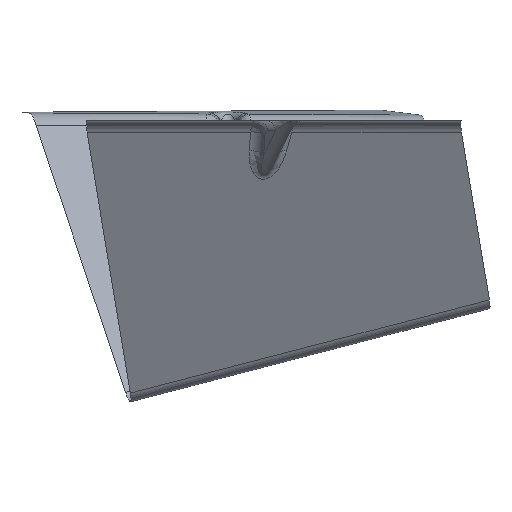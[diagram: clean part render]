
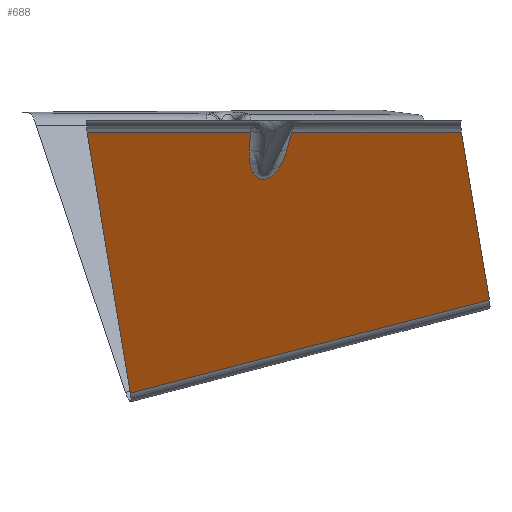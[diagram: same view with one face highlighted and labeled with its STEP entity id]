
A CAD part, left-side view. The second image highlights one B-rep face of the part: STEP entity #688.
In plain terms, the highlighted planar face has unit normal (-0.83, -0.249, -0.5).
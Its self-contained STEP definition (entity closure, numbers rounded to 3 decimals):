
#254=CARTESIAN_POINT('Vertex',(-77.236,6.213,-1.85)) ;
#277=CARTESIAN_POINT('Line Origine',(-62.4,7.956,-27.331)) ;
#281=CARTESIAN_POINT('Vertex',(-74.307,6.557,-6.88)) ;
#570=CARTESIAN_POINT('Control Point',(-71.308,-3.442,-6.88)) ;
#571=CARTESIAN_POINT('Control Point',(-71.119,-3.347,-7.24)) ;
#572=CARTESIAN_POINT('Control Point',(-70.934,-3.242,-7.6)) ;
#573=CARTESIAN_POINT('Control Point',(-70.751,-3.126,-7.96)) ;
#574=CARTESIAN_POINT('Control Point',(-70.4,-2.877,-8.666)) ;
#575=CARTESIAN_POINT('Control Point',(-70.066,-2.584,-9.367)) ;
#576=CARTESIAN_POINT('Control Point',(-69.905,-2.428,-9.711)) ;
#577=CARTESIAN_POINT('Control Point',(-69.61,-2.109,-10.359)) ;
#578=CARTESIAN_POINT('Control Point',(-69.336,-1.741,-10.998)) ;
#579=CARTESIAN_POINT('Control Point',(-69.211,-1.555,-11.298)) ;
#580=CARTESIAN_POINT('Control Point',(-68.992,-1.187,-11.844)) ;
#581=CARTESIAN_POINT('Control Point',(-68.799,-0.767,-12.374)) ;
#582=CARTESIAN_POINT('Control Point',(-68.717,-0.562,-12.612)) ;
#583=CARTESIAN_POINT('Control Point',(-68.583,-0.17,-13.028)) ;
#584=CARTESIAN_POINT('Control Point',(-68.482,0.275,-13.418)) ;
#585=CARTESIAN_POINT('Control Point',(-68.445,0.483,-13.584)) ;
#586=CARTESIAN_POINT('Control Point',(-68.395,0.872,-13.859)) ;
#587=CARTESIAN_POINT('Control Point',(-68.384,1.307,-14.094)) ;
#588=CARTESIAN_POINT('Control Point',(-68.387,1.503,-14.186)) ;
#589=CARTESIAN_POINT('Control Point',(-68.411,1.866,-14.326)) ;
#590=CARTESIAN_POINT('Control Point',(-68.472,2.25,-14.417)) ;
#591=CARTESIAN_POINT('Control Point',(-68.506,2.42,-14.446)) ;
#592=CARTESIAN_POINT('Control Point',(-68.59,2.765,-14.478)) ;
#593=CARTESIAN_POINT('Control Point',(-68.703,3.104,-14.459)) ;
#594=CARTESIAN_POINT('Control Point',(-68.767,3.27,-14.436)) ;
#595=CARTESIAN_POINT('Control Point',(-68.919,3.622,-14.359)) ;
#596=CARTESIAN_POINT('Control Point',(-69.09,3.938,-14.232)) ;
#597=CARTESIAN_POINT('Control Point',(-69.187,4.099,-14.151)) ;
#598=CARTESIAN_POINT('Control Point',(-69.403,4.425,-13.955)) ;
#599=CARTESIAN_POINT('Control Point',(-69.625,4.703,-13.725)) ;
#600=CARTESIAN_POINT('Control Point',(-69.745,4.841,-13.594)) ;
#601=CARTESIAN_POINT('Control Point',(-70.02,5.13,-13.282)) ;
#602=CARTESIAN_POINT('Control Point',(-70.294,5.371,-12.947)) ;
#603=CARTESIAN_POINT('Control Point',(-70.447,5.493,-12.754)) ;
#604=CARTESIAN_POINT('Control Point',(-70.797,5.747,-12.301)) ;
#605=CARTESIAN_POINT('Control Point',(-71.141,5.948,-11.83)) ;
#606=CARTESIAN_POINT('Control Point',(-71.333,6.048,-11.561)) ;
#607=CARTESIAN_POINT('Control Point',(-71.766,6.246,-10.941)) ;
#608=CARTESIAN_POINT('Control Point',(-72.189,6.385,-10.309)) ;
#609=CARTESIAN_POINT('Control Point',(-72.423,6.448,-9.952)) ;
#610=CARTESIAN_POINT('Control Point',(-72.952,6.559,-9.129)) ;
#611=CARTESIAN_POINT('Control Point',(-73.467,6.6,-8.296)) ;
#612=CARTESIAN_POINT('Control Point',(-73.752,6.604,-7.825)) ;
#613=CARTESIAN_POINT('Control Point',(-74.032,6.589,-7.353)) ;
#614=CARTESIAN_POINT('Control Point',(-74.307,6.557,-6.88)) ;
#615=CARTESIAN_POINT('Vertex',(-71.308,-3.442,-6.88)) ;
#633=CARTESIAN_POINT('Axis2P3D Location',(-34.776,-10.433,-64.006)) ;
#638=CARTESIAN_POINT('Line Origine',(-72.625,-4.104,-4.365)) ;
#642=CARTESIAN_POINT('Vertex',(-73.942,-4.767,-1.85)) ;
#645=CARTESIAN_POINT('Line Origine',(-83.786,28.046,-1.85)) ;
#649=CARTESIAN_POINT('Vertex',(-90.336,49.879,-1.85)) ;
#652=CARTESIAN_POINT('Line Origine',(-67.587,44.095,-36.711)) ;
#656=CARTESIAN_POINT('Vertex',(-44.839,38.312,-71.573)) ;
#659=CARTESIAN_POINT('Line Origine',(-37.958,-9.624,-59.13)) ;
#663=CARTESIAN_POINT('Vertex',(-31.077,-57.56,-46.688)) ;
#666=CARTESIAN_POINT('Line Origine',(-45.707,-53.841,-24.269)) ;
#670=CARTESIAN_POINT('Vertex',(-60.336,-50.121,-1.85)) ;
#673=CARTESIAN_POINT('Line Origine',(-67.139,-27.444,-1.85)) ;
#278=DIRECTION('Vector Direction',(0.502,0.059,-0.863)) ;
#634=DIRECTION('Axis2P3D Direction',(0.83,0.249,0.5)) ;
#635=DIRECTION('Axis2P3D XDirection',(0.541,-0.138,-0.83)) ;
#639=DIRECTION('Vector Direction',(-0.452,-0.227,0.863)) ;
#646=DIRECTION('Vector Direction',(0.287,-0.958,0.)) ;
#653=DIRECTION('Vector Direction',(0.541,-0.138,-0.83)) ;
#660=DIRECTION('Vector Direction',(0.138,-0.959,0.249)) ;
#667=DIRECTION('Vector Direction',(-0.541,0.138,0.83)) ;
#674=DIRECTION('Vector Direction',(0.287,-0.958,0.)) ;
#636=AXIS2_PLACEMENT_3D('Plane Axis2P3D',#633,#634,#635) ;
#679=ORIENTED_EDGE('',*,*,#644,.T.) ;
#680=ORIENTED_EDGE('',*,*,#617,.T.) ;
#681=ORIENTED_EDGE('',*,*,#283,.T.) ;
#682=ORIENTED_EDGE('',*,*,#651,.F.) ;
#683=ORIENTED_EDGE('',*,*,#658,.T.) ;
#684=ORIENTED_EDGE('',*,*,#665,.T.) ;
#685=ORIENTED_EDGE('',*,*,#672,.T.) ;
#686=ORIENTED_EDGE('',*,*,#677,.F.) ;
#279=VECTOR('Line Direction',#278,1.) ;
#640=VECTOR('Line Direction',#639,1.) ;
#647=VECTOR('Line Direction',#646,1.) ;
#654=VECTOR('Line Direction',#653,1.) ;
#661=VECTOR('Line Direction',#660,1.) ;
#668=VECTOR('Line Direction',#667,1.) ;
#675=VECTOR('Line Direction',#674,1.) ;
#688=ADVANCED_FACE('Extract.1',(#687),#637,.F.) ;
#569=B_SPLINE_CURVE_WITH_KNOTS('',5,(#570,#571,#572,#573,#574,#575,#576,#577,#578,#579,#580,#581,#582,#583,#584,#585,#586,#587,#588,#589,#590,#591,#592,#593,#594,#595,#596,#597,#598,#599,#600,#601,#602,#603,#604,#605,#606,#607,#608,#609,#610,#611,#612,#613,#614),.UNSPECIFIED.,.F.,.U.,(6,3,3,3,3,3,3,3,3,3,3,3,3,3,6),(18.781,21.574,24.277,26.711,28.764,30.389,31.614,32.557,33.517,34.667,36.012,37.732,39.961,42.794,46.459),.UNSPECIFIED.) ;
#283=EDGE_CURVE('',#282,#255,#280,.F.) ;
#617=EDGE_CURVE('',#616,#282,#569,.T.) ;
#644=EDGE_CURVE('',#643,#616,#641,.F.) ;
#651=EDGE_CURVE('',#650,#255,#648,.T.) ;
#658=EDGE_CURVE('',#650,#657,#655,.T.) ;
#665=EDGE_CURVE('',#657,#664,#662,.T.) ;
#672=EDGE_CURVE('',#664,#671,#669,.T.) ;
#677=EDGE_CURVE('',#643,#671,#676,.T.) ;
#678=EDGE_LOOP('',(#679,#680,#681,#682,#683,#684,#685,#686)) ;
#687=FACE_OUTER_BOUND('',#678,.T.) ;
#280=LINE('Line',#277,#279) ;
#641=LINE('Line',#638,#640) ;
#648=LINE('Line',#645,#647) ;
#655=LINE('Line',#652,#654) ;
#662=LINE('Line',#659,#661) ;
#669=LINE('Line',#666,#668) ;
#676=LINE('Line',#673,#675) ;
#637=PLANE('',#636) ;
#255=VERTEX_POINT('',#254) ;
#282=VERTEX_POINT('',#281) ;
#616=VERTEX_POINT('',#615) ;
#643=VERTEX_POINT('',#642) ;
#650=VERTEX_POINT('',#649) ;
#657=VERTEX_POINT('',#656) ;
#664=VERTEX_POINT('',#663) ;
#671=VERTEX_POINT('',#670) ;
